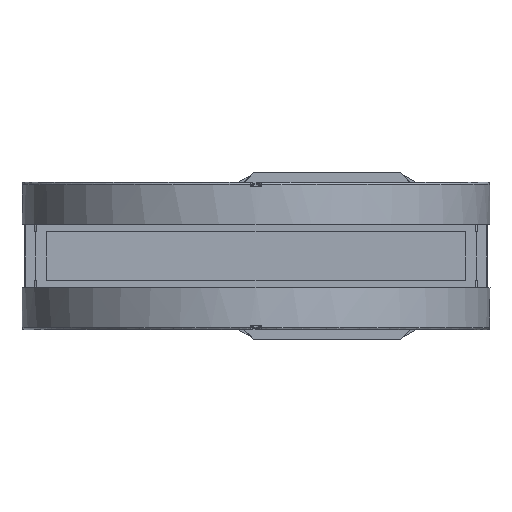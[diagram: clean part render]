
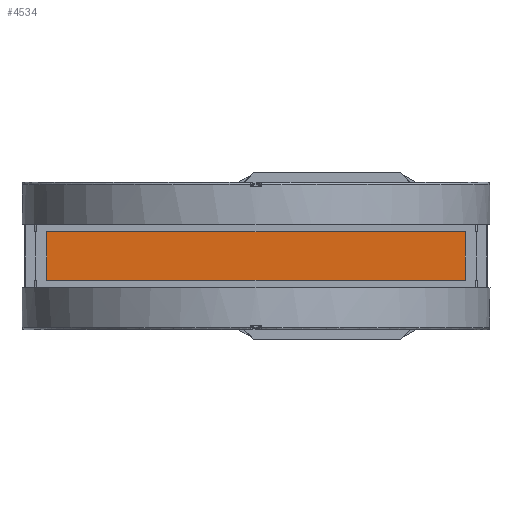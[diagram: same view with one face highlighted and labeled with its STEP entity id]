
A CAD part, front view. The second image highlights one B-rep face of the part: STEP entity #4534.
In plain terms, the highlighted free-form (B-spline) face has degree [1, 1] with [2, 2] control points.
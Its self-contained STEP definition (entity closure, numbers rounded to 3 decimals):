
#4454=CARTESIAN_POINT('V181',(-124.,
   113.075,4.0));
#4455=VERTEX_POINT('V181',#4454);
#4456=CARTESIAN_POINT('V189',(-124.,
   113.075,30.475));
#4457=VERTEX_POINT('V189',#4456);
#4458=CARTESIAN_POINT('E256',(-124.0,113.075,
   4.));
#4459=CARTESIAN_POINT('E256',(-124.0,113.075,
   30.475));
#4460=QUASI_UNIFORM_CURVE('E256',1,(#4458,#4459),.POLYLINE_FORM.,.F.,
   .U.);
#4461=EDGE_CURVE('E256',#4455,#4457,#4460,.T.);
#4490=CARTESIAN_POINT('V180',(-124.,
   -113.075,4.0));
#4491=VERTEX_POINT('V180',#4490);
#4492=CARTESIAN_POINT('E240',(-124.0,-113.075,
   4.));
#4493=CARTESIAN_POINT('E240',(-124.0,113.075,
   4.));
#4494=QUASI_UNIFORM_CURVE('E240',1,(#4492,#4493),.POLYLINE_FORM.,.F.,
   .U.);
#4495=EDGE_CURVE('E240',#4491,#4455,#4494,.T.);
#4513=CARTESIAN_POINT('F79',(-124.0,-118.729,
   31.137));
#4514=CARTESIAN_POINT('F79',(-124.0,118.729,
   31.137));
#4515=CARTESIAN_POINT('F79',(-124.0,-118.729,
   3.338));
#4516=CARTESIAN_POINT('F79',(-124.0,118.729,
   3.338));
#4517=B_SPLINE_SURFACE_WITH_KNOTS('F79',1,1,((#4513,#4515),(#4514,
   #4516)),.PLANE_SURF.,.F.,.F.,.U.,(2,2),(2,2),(0.0,
   8.542),(0.0,1.0),.UNSPECIFIED.);
#4518=ORIENTED_EDGE('E240',*,*,#4495,.T.);
#4519=ORIENTED_EDGE('E256',*,*,#4461,.T.);
#4520=CARTESIAN_POINT('V186',(-124.,
   -113.075,30.475));
#4521=VERTEX_POINT('V186',#4520);
#4522=CARTESIAN_POINT('E261',(-124.0,-113.075,
   30.475));
#4523=CARTESIAN_POINT('E261',(-124.0,113.075,
   30.475));
#4524=QUASI_UNIFORM_CURVE('E261',1,(#4522,#4523),.POLYLINE_FORM.,.F.,
   .U.);
#4525=EDGE_CURVE('E261',#4521,#4457,#4524,.T.);
#4526=ORIENTED_EDGE('E261',*,*,#4525,.F.);
#4527=CARTESIAN_POINT('E251',(-124.0,-113.075,
   30.475));
#4528=CARTESIAN_POINT('E251',(-124.0,-113.075,
   4.));
#4529=QUASI_UNIFORM_CURVE('E251',1,(#4527,#4528),.POLYLINE_FORM.,.F.,
   .U.);
#4530=EDGE_CURVE('E251',#4521,#4491,#4529,.T.);
#4531=ORIENTED_EDGE('E251',*,*,#4530,.T.);
#4532=EDGE_LOOP('F79',(#4518,#4519,#4526,#4531));
#4533=FACE_OUTER_BOUND('F79',#4532,.F.);
#4534=ADVANCED_FACE('F79',(#4533),#4517,.T.);
